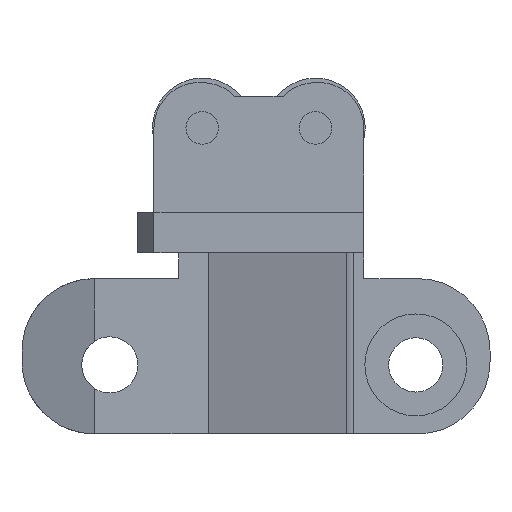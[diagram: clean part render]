
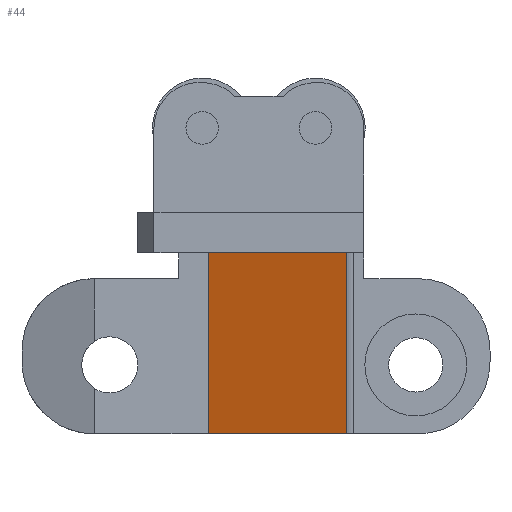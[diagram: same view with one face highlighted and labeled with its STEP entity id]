
A CAD part, left-side view. The second image highlights one B-rep face of the part: STEP entity #44.
In plain terms, the highlighted planar face has unit normal (-0.934, 0.358, 0).
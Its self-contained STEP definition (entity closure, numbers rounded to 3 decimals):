
#12 = EDGE_CURVE ( 'NONE', #50, #136, #257, .T. ) ;
#15 = ORIENTED_EDGE ( 'NONE', *, *, #80, .T. ) ;
#39 = ORIENTED_EDGE ( 'NONE', *, *, #12, .F. ) ;
#40 = ORIENTED_EDGE ( 'NONE', *, *, #47, .F. ) ;
#43 = ORIENTED_EDGE ( 'NONE', *, *, #199, .T. ) ;
#44 = ADVANCED_FACE ( 'NONE', ( #301 ), #292, .T. ) ;
#47 = EDGE_CURVE ( 'NONE', #106, #50, #243, .T. ) ;
#50 = VERTEX_POINT ( 'NONE', #285 ) ;
#51 = EDGE_LOOP ( 'NONE', ( #15, #43, #39, #40 ) ) ;
#80 = EDGE_CURVE ( 'NONE', #106, #105, #357, .T. ) ;
#105 = VERTEX_POINT ( 'NONE', #364 ) ;
#106 = VERTEX_POINT ( 'NONE', #419 ) ;
#136 = VERTEX_POINT ( 'NONE', #448 ) ;
#199 = EDGE_CURVE ( 'NONE', #105, #136, #541, .T. ) ;
#243 = LINE ( 'NONE', #277, #276 ) ;
#248 = DIRECTION ( 'NONE',  ( 0., 0., 1. ) ) ;
#249 = VECTOR ( 'NONE', #248, 1000. ) ;
#256 = CARTESIAN_POINT ( 'NONE',  ( 187.9, 112.222, 27.6 ) ) ;
#257 = LINE ( 'NONE', #256, #249 ) ;
#275 = DIRECTION ( 'NONE',  ( 0.358, 0.934, 0. ) ) ;
#276 = VECTOR ( 'NONE', #275, 1000. ) ;
#277 = CARTESIAN_POINT ( 'NONE',  ( 182.033, 96.932, 8.1 ) ) ;
#282 = DIRECTION ( 'NONE',  ( -0.358, -0.934, 0. ) ) ;
#283 = DIRECTION ( 'NONE',  ( -0.934, 0.358, 0. ) ) ;
#285 = CARTESIAN_POINT ( 'NONE',  ( 187.9, 112.222, 8.1 ) ) ;
#287 = AXIS2_PLACEMENT_3D ( 'NONE', #294, #283, #282 ) ;
#292 = PLANE ( 'NONE',  #287 ) ;
#294 = CARTESIAN_POINT ( 'NONE',  ( 187.9, 112.222, 27.6 ) ) ;
#301 = FACE_OUTER_BOUND ( 'NONE', #51, .T. ) ;
#340 = DIRECTION ( 'NONE',  ( 0., 0., 1. ) ) ;
#343 = VECTOR ( 'NONE', #340, 1000. ) ;
#356 = CARTESIAN_POINT ( 'NONE',  ( 182.033, 96.932, 27.6 ) ) ;
#357 = LINE ( 'NONE', #356, #343 ) ;
#364 = CARTESIAN_POINT ( 'NONE',  ( 182.033, 96.932, 28.1 ) ) ;
#419 = CARTESIAN_POINT ( 'NONE',  ( 182.033, 96.932, 8.1 ) ) ;
#448 = CARTESIAN_POINT ( 'NONE',  ( 187.9, 112.222, 28.1 ) ) ;
#538 = DIRECTION ( 'NONE',  ( 0.358, 0.934, 0. ) ) ;
#539 = VECTOR ( 'NONE', #538, 1000. ) ;
#540 = CARTESIAN_POINT ( 'NONE',  ( 187.9, 112.222, 28.1 ) ) ;
#541 = LINE ( 'NONE', #540, #539 ) ;
